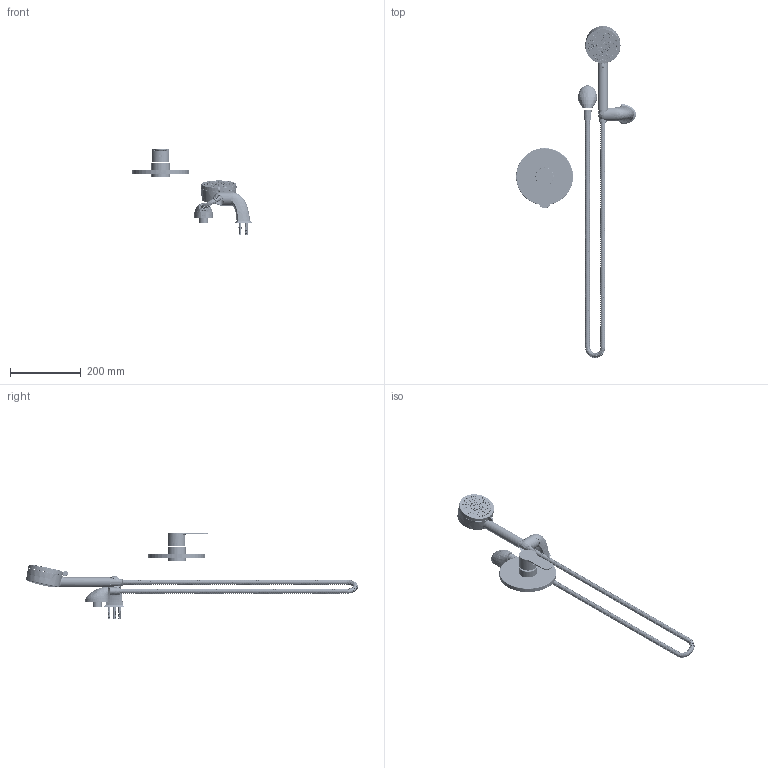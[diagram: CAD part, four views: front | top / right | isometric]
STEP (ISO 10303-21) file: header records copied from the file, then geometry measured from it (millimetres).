
FILE_DESCRIPTION (( 'STEP AP214' ), '1' );
FILE_NAME ('6793TRM.STEP', '2025-01-15T08:55:27', ( '' ), ( '' ), 'SwSTEP 2.0', 'SolidWorks 2023', '' );
FILE_SCHEMA (( 'AUTOMOTIVE_DESIGN' ));
Products named in the file (1): 6793TRM
Bounding box: 338.79 x 938.91 x 244.58 mm (x, y, z)
Surface area: 305417.2 mm2 (no closed solid volume)
Topology: 0 solids, 181 shells, 1381 faces, 5086 edges, 3800 vertices
Faces by surface type: bspline 416, plane 360, cylinder 321, cone 198, torus 75, sphere 11
Entity records: 258386 total; most frequent: CARTESIAN_POINT 221887, ORIENTED_EDGE 7374, DIRECTION 5770, EDGE_CURVE 5075, VERTEX_POINT 3800, AXIS2_PLACEMENT_3D 2174, B_SPLINE_CURVE_WITH_KNOTS 2100, EDGE_LOOP 1744
